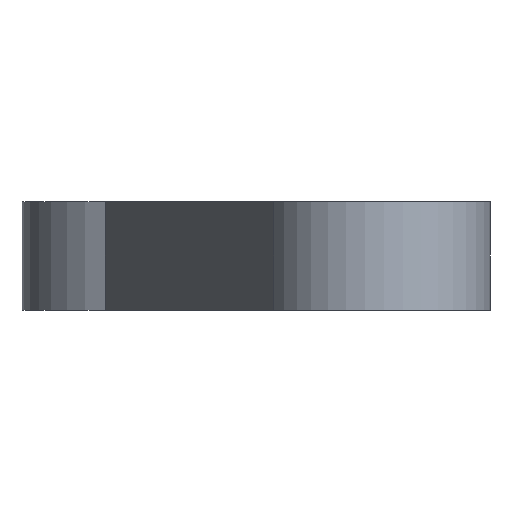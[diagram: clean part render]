
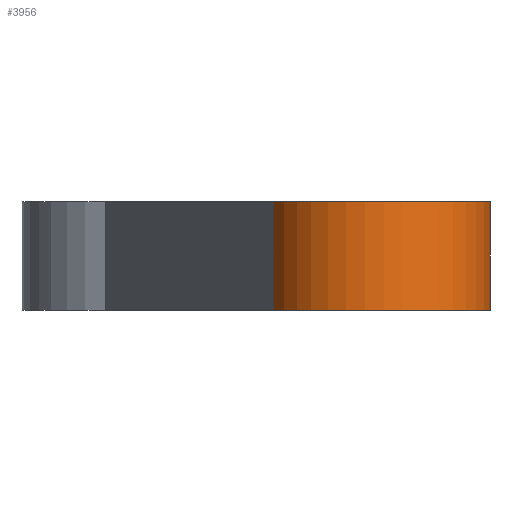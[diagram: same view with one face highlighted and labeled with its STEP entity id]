
A CAD part, left-side view. The second image highlights one B-rep face of the part: STEP entity #3956.
In plain terms, the highlighted cylindrical face has radius 21 mm (diameter 42 mm), a partial arc.
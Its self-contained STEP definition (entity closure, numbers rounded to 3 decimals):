
#57=CARTESIAN_POINT('',(-75.,-39.,-10.));
#58=DIRECTION('',(0.,0.,1.));
#59=DIRECTION('',(-0.454,0.891,0.));
#60=AXIS2_PLACEMENT_3D('',#57,#58,#59);
#141=CARTESIAN_POINT('',(-75.,-39.,10.));
#142=DIRECTION('',(0.,0.,1.));
#143=DIRECTION('',(-0.454,0.891,0.));
#144=AXIS2_PLACEMENT_3D('',#141,#142,#143);
#915=DIRECTION('',(0.,0.,1.));
#916=VECTOR('',#915,20.);
#917=CARTESIAN_POINT('',(-71.353,-59.681,-10.));
#918=LINE('',#917,#916);
#919=DIRECTION('',(0.,0.,1.));
#920=VECTOR('',#919,20.);
#921=CARTESIAN_POINT('',(-84.534,-20.289,-10.));
#922=LINE('',#921,#920);
#2511=CARTESIAN_POINT('',(-84.534,-20.289,-10.));
#2513=VERTEX_POINT('',#2511);
#2514=CARTESIAN_POINT('',(-71.353,-59.681,-10.));
#2515=VERTEX_POINT('',#2514);
#2517=CARTESIAN_POINT('',(-84.534,-20.289,10.));
#2519=VERTEX_POINT('',#2517);
#2520=CARTESIAN_POINT('',(-71.353,-59.681,10.));
#2521=VERTEX_POINT('',#2520);
#3944=CARTESIAN_POINT('',(-75.,-39.,-10.));
#3945=DIRECTION('',(0.,0.,1.));
#3946=DIRECTION('',(1.,0.,0.));
#3947=AXIS2_PLACEMENT_3D('',#3944,#3945,#3946);
#3948=CYLINDRICAL_SURFACE('',#3947,21.);
#3949=ORIENTED_EDGE('',*,*,#3335,.F.);
#3951=ORIENTED_EDGE('',*,*,#3950,.T.);
#3952=ORIENTED_EDGE('',*,*,#3436,.T.);
#3953=ORIENTED_EDGE('',*,*,#3938,.F.);
#3954=EDGE_LOOP('',(#3949,#3951,#3952,#3953));
#3955=FACE_OUTER_BOUND('',#3954,.F.);
#3956=ADVANCED_FACE('',(#3955),#3948,.T.);
#61=CIRCLE('',#60,21.);
#145=CIRCLE('',#144,21.);
#3335=EDGE_CURVE('',#2513,#2515,#61,.T.);
#3436=EDGE_CURVE('',#2519,#2521,#145,.T.);
#3938=EDGE_CURVE('',#2515,#2521,#918,.T.);
#3950=EDGE_CURVE('',#2513,#2519,#922,.T.);
